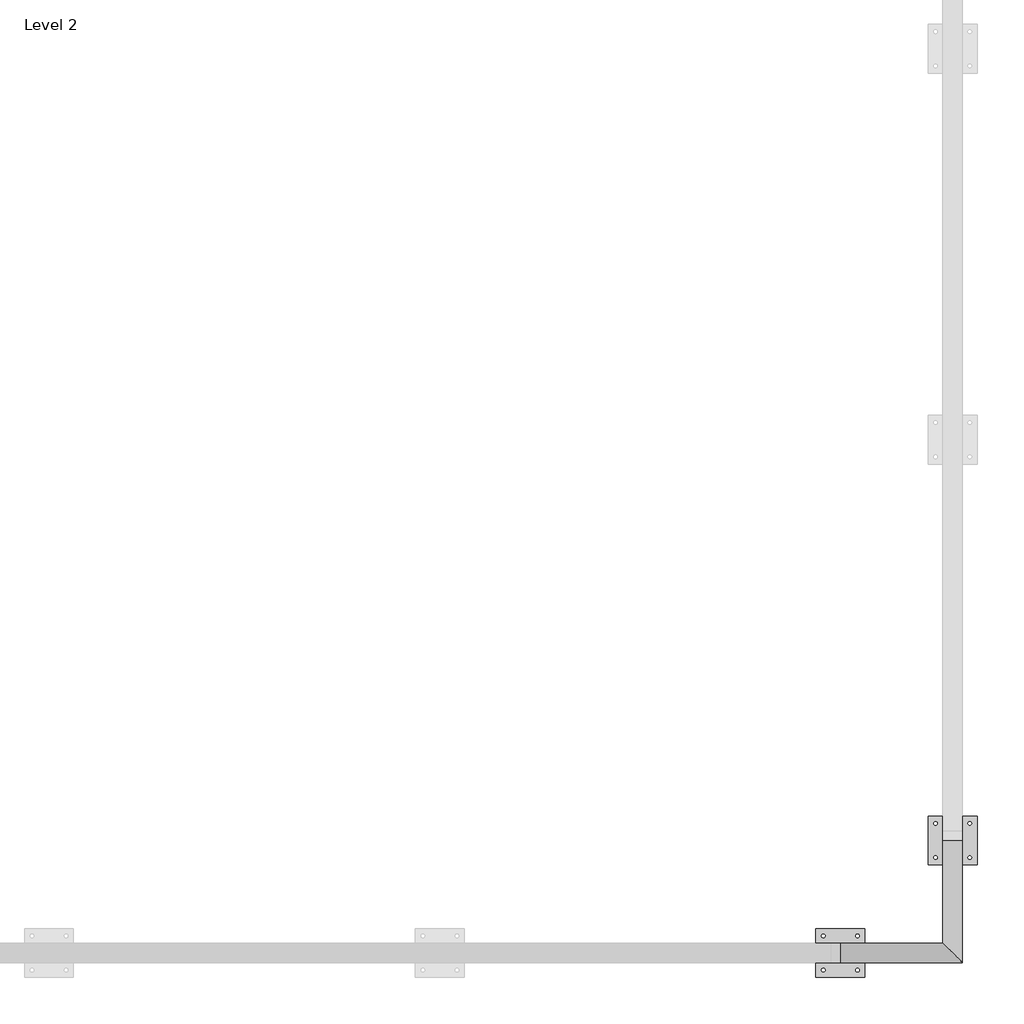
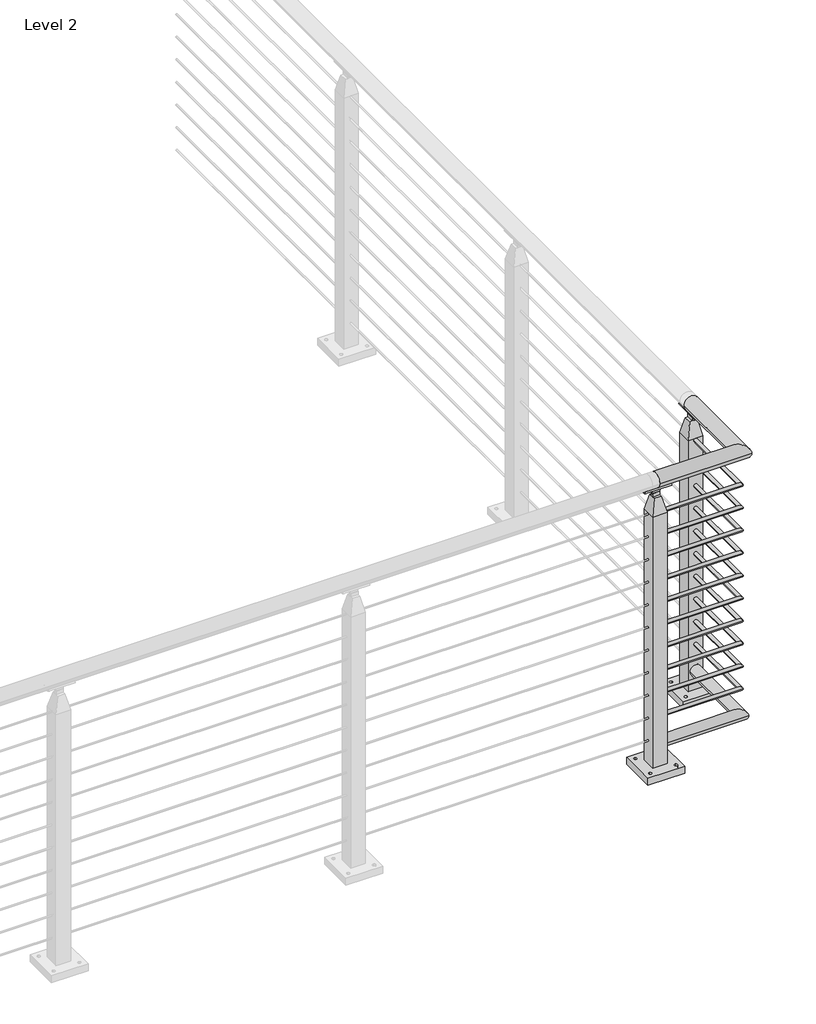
# One storey, part 9 of 17: 1 railing.
"""IFC4 building model written with IfcOpenShell, lengths in millimetres."""

from ifc_helpers import new_model, si_unit, point, frame, frame_2d, origin, place, context, project, spatial, polyline, circle_curve, ellipse_curve, trimmed, segment, composite_curve, outline, extrude, faceted_brep, element, save
from ifc_brep_helpers import plane_surface, cylinder_surface, revolved_surface, advanced_brep

model = new_model("IFC4")

# Units and contexts
model_context = context("Model", 3, world=origin())
ifc_project = project(units=[si_unit("LENGTHUNIT", "METRE", prefix="MILLI")], contexts=[model_context])

# Site, building, storey
site = spatial("IfcSite", under=ifc_project)
building = spatial("IfcBuilding", under=site)
storey = spatial("IfcBuildingStorey", under=building, Name="Level 2", Elevation=3048.0)

# Railing
placement = place(None, origin())
element("IfcRailing", 1, ObjectType="VIVA-CUBE-Cable-Floor Mount-Corner", at=placement, inside=storey, context=model_context, shape_type="SolidModel", body=[
    advanced_brep(
    [(20617.7199014, -52130.1426165, 4102.1), (20617.7199014, -52079.3426165, 4102.1), (20935.2199014, -52130.1426165, 4102.1), (20884.4199014, -52079.3426165, 4102.1), (20935.2199014, -51812.6426165, 4102.1), (20884.4199014, -51812.6426165, 4102.1)],
    [
        (0, 1, circle_curve(frame((20617.7199014, -52104.7426165, 4102.1), z_axis=(-1.0, 0.0, 0.0), x_axis=(0.0, 1.0, 0.0)), 25.4)),
        (1, 0, circle_curve(frame((20617.7199014, -52104.7426165, 4102.1), z_axis=(-1.0, 0.0, 0.0), x_axis=(0.0, 1.0, 0.0)), 25.4)),
        (0, 2),
        (2, 3, ellipse_curve(frame((20909.8199014, -52104.7426165, 4102.1), z_axis=(-0.7071067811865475, -0.7071067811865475, 0.0), x_axis=(-0.7071067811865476, 0.7071067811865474, 0.0)), 35.9210245, 25.4)),
        (3, 1),
        (3, 2, ellipse_curve(frame((20909.8199014, -52104.7426165, 4102.1), z_axis=(-0.7071067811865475, -0.7071067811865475, 0.0), x_axis=(-0.7071067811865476, 0.7071067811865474, 0.0)), 35.9210245, 25.4)),
        (4, 5, circle_curve(frame((20909.8199014, -51812.6426165, 4102.1), z_axis=(0.0, 1.0, 0.0), x_axis=(-1.0, 0.0, 0.0)), 25.4)),
        (5, 4, circle_curve(frame((20909.8199014, -51812.6426165, 4102.1), z_axis=(0.0, 1.0, 0.0), x_axis=(-1.0, 0.0, 0.0)), 25.4)),
        (2, 4),
        (5, 3),
    ],
    [
        plane_surface(frame((20617.7199014, -52104.7426165, 4127.5), z_axis=(-1.0, 0.0, 0.0), x_axis=(0.0, 1.0, 0.0))),
        cylinder_surface(frame((20617.7199014, -52104.7426165, 4102.1), z_axis=(-1.0, 0.0, 0.0), x_axis=(0.0, 1.0, 0.0)), 25.4),
        plane_surface(frame((20909.8199014, -51812.6426165, 4127.5), z_axis=(0.0, 1.0, 0.0), x_axis=(0.0, 0.0, 1.0))),
        cylinder_surface(frame((20909.8199014, -52104.7426165, 4102.1), z_axis=(0.0, -1.0, 0.0), x_axis=(-1.0, 0.0, 0.0)), 25.4),
    ],
    [
        (0, [[1, 2]]),
        (1, [[-1, 3, 4, 5]]),
        (1, [[-2, -5, 6, -3]]),
        (2, [[7, 8]]),
        (3, [[-4, 9, -8, 10]]),
        (3, [[-6, -10, -7, -9]]),
    ],
),
    advanced_brep(
    [(20617.7199014, -52098.3926165, 3981.45), (20617.7199014, -52111.0926165, 3981.45), (20903.4699014, -52098.3926165, 3981.45), (20916.1699014, -52111.0926165, 3981.45), (20903.4699014, -51812.6426165, 3981.45), (20916.1699014, -51812.6426165, 3981.45)],
    [
        (0, 1, circle_curve(frame((20617.7199014, -52104.7426165, 3981.45), z_axis=(-1.0, 0.0, 0.0), x_axis=(0.0, -1.0, 0.0)), 6.35)),
        (1, 0, circle_curve(frame((20617.7199014, -52104.7426165, 3981.45), z_axis=(-1.0, 0.0, 0.0), x_axis=(0.0, -1.0, 0.0)), 6.35)),
        (0, 2),
        (2, 3, ellipse_curve(frame((20909.8199014, -52104.7426165, 3981.45), z_axis=(-0.7071067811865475, -0.7071067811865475, 0.0), x_axis=(-0.7071067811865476, 0.7071067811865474, 0.0)), 8.9802561, 6.35)),
        (3, 1),
        (3, 2, ellipse_curve(frame((20909.8199014, -52104.7426165, 3981.45), z_axis=(-0.7071067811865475, -0.7071067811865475, 0.0), x_axis=(-0.7071067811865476, 0.7071067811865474, 0.0)), 8.9802561, 6.35)),
        (4, 5, circle_curve(frame((20909.8199014, -51812.6426165, 3981.45), z_axis=(0.0, 1.0, 0.0), x_axis=(1.0, 0.0, 0.0)), 6.35)),
        (5, 4, circle_curve(frame((20909.8199014, -51812.6426165, 3981.45), z_axis=(0.0, 1.0, 0.0), x_axis=(1.0, 0.0, 0.0)), 6.35)),
        (2, 4),
        (5, 3),
    ],
    [
        plane_surface(frame((20617.7199014, -52104.7426165, 3987.8), z_axis=(-1.0, 0.0, 0.0), x_axis=(0.0, 1.0, 0.0))),
        cylinder_surface(frame((20617.7199014, -52104.7426165, 3981.45), z_axis=(-1.0, 0.0, 0.0), x_axis=(0.0, -1.0, 0.0)), 6.35),
        plane_surface(frame((20909.8199014, -51812.6426165, 3987.8), z_axis=(0.0, 1.0, 0.0), x_axis=(0.0, 0.0, 1.0))),
        cylinder_surface(frame((20909.8199014, -52104.7426165, 3981.45), z_axis=(0.0, -1.0, 0.0), x_axis=(1.0, 0.0, 0.0)), 6.35),
    ],
    [
        (0, [[1, 2]]),
        (1, [[-1, 3, 4, 5]]),
        (1, [[-2, -5, 6, -3]]),
        (2, [[7, 8]]),
        (3, [[-4, 9, -8, 10]]),
        (3, [[-6, -10, -7, -9]]),
    ],
),
    advanced_brep(
    [(20617.7199014, -52098.3926165, 3898.9), (20617.7199014, -52111.0926165, 3898.9), (20903.4699014, -52098.3926165, 3898.9), (20916.1699014, -52111.0926165, 3898.9), (20903.4699014, -51812.6426165, 3898.9), (20916.1699014, -51812.6426165, 3898.9)],
    [
        (0, 1, circle_curve(frame((20617.7199014, -52104.7426165, 3898.9), z_axis=(-1.0, 0.0, 0.0), x_axis=(0.0, -1.0, 0.0)), 6.35)),
        (1, 0, circle_curve(frame((20617.7199014, -52104.7426165, 3898.9), z_axis=(-1.0, 0.0, 0.0), x_axis=(0.0, -1.0, 0.0)), 6.35)),
        (0, 2),
        (2, 3, ellipse_curve(frame((20909.8199014, -52104.7426165, 3898.9), z_axis=(-0.7071067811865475, -0.7071067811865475, 0.0), x_axis=(-0.7071067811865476, 0.7071067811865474, 0.0)), 8.9802561, 6.35)),
        (3, 1),
        (3, 2, ellipse_curve(frame((20909.8199014, -52104.7426165, 3898.9), z_axis=(-0.7071067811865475, -0.7071067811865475, 0.0), x_axis=(-0.7071067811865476, 0.7071067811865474, 0.0)), 8.9802561, 6.35)),
        (4, 5, circle_curve(frame((20909.8199014, -51812.6426165, 3898.9), z_axis=(0.0, 1.0, 0.0), x_axis=(1.0, 0.0, 0.0)), 6.35)),
        (5, 4, circle_curve(frame((20909.8199014, -51812.6426165, 3898.9), z_axis=(0.0, 1.0, 0.0), x_axis=(1.0, 0.0, 0.0)), 6.35)),
        (2, 4),
        (5, 3),
    ],
    [
        plane_surface(frame((20617.7199014, -52104.7426165, 3905.25), z_axis=(-1.0, 0.0, 0.0), x_axis=(0.0, 1.0, 0.0))),
        cylinder_surface(frame((20617.7199014, -52104.7426165, 3898.9), z_axis=(-1.0, 0.0, 0.0), x_axis=(0.0, -1.0, 0.0)), 6.35),
        plane_surface(frame((20909.8199014, -51812.6426165, 3905.25), z_axis=(0.0, 1.0, 0.0), x_axis=(0.0, 0.0, 1.0))),
        cylinder_surface(frame((20909.8199014, -52104.7426165, 3898.9), z_axis=(0.0, -1.0, 0.0), x_axis=(1.0, 0.0, 0.0)), 6.35),
    ],
    [
        (0, [[1, 2]]),
        (1, [[-1, 3, 4, 5]]),
        (1, [[-2, -5, 6, -3]]),
        (2, [[7, 8]]),
        (3, [[-4, 9, -8, 10]]),
        (3, [[-6, -10, -7, -9]]),
    ],
),
    advanced_brep(
    [(20617.7199014, -52098.3926165, 3816.35), (20617.7199014, -52111.0926165, 3816.35), (20903.4699014, -52098.3926165, 3816.35), (20916.1699014, -52111.0926165, 3816.35), (20903.4699014, -51812.6426165, 3816.35), (20916.1699014, -51812.6426165, 3816.35)],
    [
        (0, 1, circle_curve(frame((20617.7199014, -52104.7426165, 3816.35), z_axis=(-1.0, 0.0, 0.0), x_axis=(0.0, -1.0, 0.0)), 6.35)),
        (1, 0, circle_curve(frame((20617.7199014, -52104.7426165, 3816.35), z_axis=(-1.0, 0.0, 0.0), x_axis=(0.0, -1.0, 0.0)), 6.35)),
        (0, 2),
        (2, 3, ellipse_curve(frame((20909.8199014, -52104.7426165, 3816.35), z_axis=(-0.7071067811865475, -0.7071067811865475, 0.0), x_axis=(-0.7071067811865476, 0.7071067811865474, 0.0)), 8.9802561, 6.35)),
        (3, 1),
        (3, 2, ellipse_curve(frame((20909.8199014, -52104.7426165, 3816.35), z_axis=(-0.7071067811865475, -0.7071067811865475, 0.0), x_axis=(-0.7071067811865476, 0.7071067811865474, 0.0)), 8.9802561, 6.35)),
        (4, 5, circle_curve(frame((20909.8199014, -51812.6426165, 3816.35), z_axis=(0.0, 1.0, 0.0), x_axis=(1.0, 0.0, 0.0)), 6.35)),
        (5, 4, circle_curve(frame((20909.8199014, -51812.6426165, 3816.35), z_axis=(0.0, 1.0, 0.0), x_axis=(1.0, 0.0, 0.0)), 6.35)),
        (2, 4),
        (5, 3),
    ],
    [
        plane_surface(frame((20617.7199014, -52104.7426165, 3822.7), z_axis=(-1.0, 0.0, 0.0), x_axis=(0.0, 1.0, 0.0))),
        cylinder_surface(frame((20617.7199014, -52104.7426165, 3816.35), z_axis=(-1.0, 0.0, 0.0), x_axis=(0.0, -1.0, 0.0)), 6.35),
        plane_surface(frame((20909.8199014, -51812.6426165, 3822.7), z_axis=(0.0, 1.0, 0.0), x_axis=(0.0, 0.0, 1.0))),
        cylinder_surface(frame((20909.8199014, -52104.7426165, 3816.35), z_axis=(0.0, -1.0, 0.0), x_axis=(1.0, 0.0, 0.0)), 6.35),
    ],
    [
        (0, [[1, 2]]),
        (1, [[-1, 3, 4, 5]]),
        (1, [[-2, -5, 6, -3]]),
        (2, [[7, 8]]),
        (3, [[-4, 9, -8, 10]]),
        (3, [[-6, -10, -7, -9]]),
    ],
),
    advanced_brep(
    [(20617.7199014, -52098.3926165, 3733.8), (20617.7199014, -52111.0926165, 3733.8), (20903.4699014, -52098.3926165, 3733.8), (20916.1699014, -52111.0926165, 3733.8), (20903.4699014, -51812.6426165, 3733.8), (20916.1699014, -51812.6426165, 3733.8)],
    [
        (0, 1, circle_curve(frame((20617.7199014, -52104.7426165, 3733.8), z_axis=(-1.0, 0.0, 0.0), x_axis=(0.0, -1.0, 0.0)), 6.35)),
        (1, 0, circle_curve(frame((20617.7199014, -52104.7426165, 3733.8), z_axis=(-1.0, 0.0, 0.0), x_axis=(0.0, -1.0, 0.0)), 6.35)),
        (0, 2),
        (2, 3, ellipse_curve(frame((20909.8199014, -52104.7426165, 3733.8), z_axis=(-0.7071067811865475, -0.7071067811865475, 0.0), x_axis=(-0.7071067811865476, 0.7071067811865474, 0.0)), 8.9802561, 6.35)),
        (3, 1),
        (3, 2, ellipse_curve(frame((20909.8199014, -52104.7426165, 3733.8), z_axis=(-0.7071067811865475, -0.7071067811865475, 0.0), x_axis=(-0.7071067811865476, 0.7071067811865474, 0.0)), 8.9802561, 6.35)),
        (4, 5, circle_curve(frame((20909.8199014, -51812.6426165, 3733.8), z_axis=(0.0, 1.0, 0.0), x_axis=(1.0, 0.0, 0.0)), 6.35)),
        (5, 4, circle_curve(frame((20909.8199014, -51812.6426165, 3733.8), z_axis=(0.0, 1.0, 0.0), x_axis=(1.0, 0.0, 0.0)), 6.35)),
        (2, 4),
        (5, 3),
    ],
    [
        plane_surface(frame((20617.7199014, -52104.7426165, 3740.15), z_axis=(-1.0, 0.0, 0.0), x_axis=(0.0, 1.0, 0.0))),
        cylinder_surface(frame((20617.7199014, -52104.7426165, 3733.8), z_axis=(-1.0, 0.0, 0.0), x_axis=(0.0, -1.0, 0.0)), 6.35),
        plane_surface(frame((20909.8199014, -51812.6426165, 3740.15), z_axis=(0.0, 1.0, 0.0), x_axis=(0.0, 0.0, 1.0))),
        cylinder_surface(frame((20909.8199014, -52104.7426165, 3733.8), z_axis=(0.0, -1.0, 0.0), x_axis=(1.0, 0.0, 0.0)), 6.35),
    ],
    [
        (0, [[1, 2]]),
        (1, [[-1, 3, 4, 5]]),
        (1, [[-2, -5, 6, -3]]),
        (2, [[7, 8]]),
        (3, [[-4, 9, -8, 10]]),
        (3, [[-6, -10, -7, -9]]),
    ],
),
    advanced_brep(
    [(20617.7199014, -52098.3926165, 3651.25), (20617.7199014, -52111.0926165, 3651.25), (20903.4699014, -52098.3926165, 3651.25), (20916.1699014, -52111.0926165, 3651.25), (20903.4699014, -51812.6426165, 3651.25), (20916.1699014, -51812.6426165, 3651.25)],
    [
        (0, 1, circle_curve(frame((20617.7199014, -52104.7426165, 3651.25), z_axis=(-1.0, 0.0, 0.0), x_axis=(0.0, -1.0, 0.0)), 6.35)),
        (1, 0, circle_curve(frame((20617.7199014, -52104.7426165, 3651.25), z_axis=(-1.0, 0.0, 0.0), x_axis=(0.0, -1.0, 0.0)), 6.35)),
        (0, 2),
        (2, 3, ellipse_curve(frame((20909.8199014, -52104.7426165, 3651.25), z_axis=(-0.7071067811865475, -0.7071067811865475, 0.0), x_axis=(-0.7071067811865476, 0.7071067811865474, 0.0)), 8.9802561, 6.35)),
        (3, 1),
        (3, 2, ellipse_curve(frame((20909.8199014, -52104.7426165, 3651.25), z_axis=(-0.7071067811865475, -0.7071067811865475, 0.0), x_axis=(-0.7071067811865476, 0.7071067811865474, 0.0)), 8.9802561, 6.35)),
        (4, 5, circle_curve(frame((20909.8199014, -51812.6426165, 3651.25), z_axis=(0.0, 1.0, 0.0), x_axis=(1.0, 0.0, 0.0)), 6.35)),
        (5, 4, circle_curve(frame((20909.8199014, -51812.6426165, 3651.25), z_axis=(0.0, 1.0, 0.0), x_axis=(1.0, 0.0, 0.0)), 6.35)),
        (2, 4),
        (5, 3),
    ],
    [
        plane_surface(frame((20617.7199014, -52104.7426165, 3657.6), z_axis=(-1.0, 0.0, 0.0), x_axis=(0.0, 1.0, 0.0))),
        cylinder_surface(frame((20617.7199014, -52104.7426165, 3651.25), z_axis=(-1.0, 0.0, 0.0), x_axis=(0.0, -1.0, 0.0)), 6.35),
        plane_surface(frame((20909.8199014, -51812.6426165, 3657.6), z_axis=(0.0, 1.0, 0.0), x_axis=(0.0, 0.0, 1.0))),
        cylinder_surface(frame((20909.8199014, -52104.7426165, 3651.25), z_axis=(0.0, -1.0, 0.0), x_axis=(1.0, 0.0, 0.0)), 6.35),
    ],
    [
        (0, [[1, 2]]),
        (1, [[-1, 3, 4, 5]]),
        (1, [[-2, -5, 6, -3]]),
        (2, [[7, 8]]),
        (3, [[-4, 9, -8, 10]]),
        (3, [[-6, -10, -7, -9]]),
    ],
),
    advanced_brep(
    [(20617.7199014, -52098.3926165, 3568.7), (20617.7199014, -52111.0926165, 3568.7), (20903.4699014, -52098.3926165, 3568.7), (20916.1699014, -52111.0926165, 3568.7), (20903.4699014, -51812.6426165, 3568.7), (20916.1699014, -51812.6426165, 3568.7)],
    [
        (0, 1, circle_curve(frame((20617.7199014, -52104.7426165, 3568.7), z_axis=(-1.0, 0.0, 0.0), x_axis=(0.0, -1.0, 0.0)), 6.35)),
        (1, 0, circle_curve(frame((20617.7199014, -52104.7426165, 3568.7), z_axis=(-1.0, 0.0, 0.0), x_axis=(0.0, -1.0, 0.0)), 6.35)),
        (0, 2),
        (2, 3, ellipse_curve(frame((20909.8199014, -52104.7426165, 3568.7), z_axis=(-0.7071067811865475, -0.7071067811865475, 0.0), x_axis=(-0.7071067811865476, 0.7071067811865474, 0.0)), 8.9802561, 6.35)),
        (3, 1),
        (3, 2, ellipse_curve(frame((20909.8199014, -52104.7426165, 3568.7), z_axis=(-0.7071067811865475, -0.7071067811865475, 0.0), x_axis=(-0.7071067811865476, 0.7071067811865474, 0.0)), 8.9802561, 6.35)),
        (4, 5, circle_curve(frame((20909.8199014, -51812.6426165, 3568.7), z_axis=(0.0, 1.0, 0.0), x_axis=(1.0, 0.0, 0.0)), 6.35)),
        (5, 4, circle_curve(frame((20909.8199014, -51812.6426165, 3568.7), z_axis=(0.0, 1.0, 0.0), x_axis=(1.0, 0.0, 0.0)), 6.35)),
        (2, 4),
        (5, 3),
    ],
    [
        plane_surface(frame((20617.7199014, -52104.7426165, 3575.05), z_axis=(-1.0, 0.0, 0.0), x_axis=(0.0, 1.0, 0.0))),
        cylinder_surface(frame((20617.7199014, -52104.7426165, 3568.7), z_axis=(-1.0, 0.0, 0.0), x_axis=(0.0, -1.0, 0.0)), 6.35),
        plane_surface(frame((20909.8199014, -51812.6426165, 3575.05), z_axis=(0.0, 1.0, 0.0), x_axis=(0.0, 0.0, 1.0))),
        cylinder_surface(frame((20909.8199014, -52104.7426165, 3568.7), z_axis=(0.0, -1.0, 0.0), x_axis=(1.0, 0.0, 0.0)), 6.35),
    ],
    [
        (0, [[1, 2]]),
        (1, [[-1, 3, 4, 5]]),
        (1, [[-2, -5, 6, -3]]),
        (2, [[7, 8]]),
        (3, [[-4, 9, -8, 10]]),
        (3, [[-6, -10, -7, -9]]),
    ],
),
    advanced_brep(
    [(20617.7199014, -52098.3926165, 3486.15), (20617.7199014, -52111.0926165, 3486.15), (20903.4699014, -52098.3926165, 3486.15), (20916.1699014, -52111.0926165, 3486.15), (20903.4699014, -51812.6426165, 3486.15), (20916.1699014, -51812.6426165, 3486.15)],
    [
        (0, 1, circle_curve(frame((20617.7199014, -52104.7426165, 3486.15), z_axis=(-1.0, 0.0, 0.0), x_axis=(0.0, -1.0, 0.0)), 6.35)),
        (1, 0, circle_curve(frame((20617.7199014, -52104.7426165, 3486.15), z_axis=(-1.0, 0.0, 0.0), x_axis=(0.0, -1.0, 0.0)), 6.35)),
        (0, 2),
        (2, 3, ellipse_curve(frame((20909.8199014, -52104.7426165, 3486.15), z_axis=(-0.7071067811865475, -0.7071067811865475, 0.0), x_axis=(-0.7071067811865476, 0.7071067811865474, 0.0)), 8.9802561, 6.35)),
        (3, 1),
        (3, 2, ellipse_curve(frame((20909.8199014, -52104.7426165, 3486.15), z_axis=(-0.7071067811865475, -0.7071067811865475, 0.0), x_axis=(-0.7071067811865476, 0.7071067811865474, 0.0)), 8.9802561, 6.35)),
        (4, 5, circle_curve(frame((20909.8199014, -51812.6426165, 3486.15), z_axis=(0.0, 1.0, 0.0), x_axis=(1.0, 0.0, 0.0)), 6.35)),
        (5, 4, circle_curve(frame((20909.8199014, -51812.6426165, 3486.15), z_axis=(0.0, 1.0, 0.0), x_axis=(1.0, 0.0, 0.0)), 6.35)),
        (2, 4),
        (5, 3),
    ],
    [
        plane_surface(frame((20617.7199014, -52104.7426165, 3492.5), z_axis=(-1.0, 0.0, 0.0), x_axis=(0.0, 1.0, 0.0))),
        cylinder_surface(frame((20617.7199014, -52104.7426165, 3486.15), z_axis=(-1.0, 0.0, 0.0), x_axis=(0.0, -1.0, 0.0)), 6.35),
        plane_surface(frame((20909.8199014, -51812.6426165, 3492.5), z_axis=(0.0, 1.0, 0.0), x_axis=(0.0, 0.0, 1.0))),
        cylinder_surface(frame((20909.8199014, -52104.7426165, 3486.15), z_axis=(0.0, -1.0, 0.0), x_axis=(1.0, 0.0, 0.0)), 6.35),
    ],
    [
        (0, [[1, 2]]),
        (1, [[-1, 3, 4, 5]]),
        (1, [[-2, -5, 6, -3]]),
        (2, [[7, 8]]),
        (3, [[-4, 9, -8, 10]]),
        (3, [[-6, -10, -7, -9]]),
    ],
),
    advanced_brep(
    [(20617.7199014, -52098.3926165, 3403.6), (20617.7199014, -52111.0926165, 3403.6), (20903.4699014, -52098.3926165, 3403.6), (20916.1699014, -52111.0926165, 3403.6), (20903.4699014, -51812.6426165, 3403.6), (20916.1699014, -51812.6426165, 3403.6)],
    [
        (0, 1, circle_curve(frame((20617.7199014, -52104.7426165, 3403.6), z_axis=(-1.0, 0.0, 0.0), x_axis=(0.0, -1.0, 0.0)), 6.35)),
        (1, 0, circle_curve(frame((20617.7199014, -52104.7426165, 3403.6), z_axis=(-1.0, 0.0, 0.0), x_axis=(0.0, -1.0, 0.0)), 6.35)),
        (0, 2),
        (2, 3, ellipse_curve(frame((20909.8199014, -52104.7426165, 3403.6), z_axis=(-0.7071067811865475, -0.7071067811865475, 0.0), x_axis=(-0.7071067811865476, 0.7071067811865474, 0.0)), 8.9802561, 6.35)),
        (3, 1),
        (3, 2, ellipse_curve(frame((20909.8199014, -52104.7426165, 3403.6), z_axis=(-0.7071067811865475, -0.7071067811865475, 0.0), x_axis=(-0.7071067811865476, 0.7071067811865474, 0.0)), 8.9802561, 6.35)),
        (4, 5, circle_curve(frame((20909.8199014, -51812.6426165, 3403.6), z_axis=(0.0, 1.0, 0.0), x_axis=(1.0, 0.0, 0.0)), 6.35)),
        (5, 4, circle_curve(frame((20909.8199014, -51812.6426165, 3403.6), z_axis=(0.0, 1.0, 0.0), x_axis=(1.0, 0.0, 0.0)), 6.35)),
        (2, 4),
        (5, 3),
    ],
    [
        plane_surface(frame((20617.7199014, -52104.7426165, 3409.95), z_axis=(-1.0, 0.0, 0.0), x_axis=(0.0, 1.0, 0.0))),
        cylinder_surface(frame((20617.7199014, -52104.7426165, 3403.6), z_axis=(-1.0, 0.0, 0.0), x_axis=(0.0, -1.0, 0.0)), 6.35),
        plane_surface(frame((20909.8199014, -51812.6426165, 3409.95), z_axis=(0.0, 1.0, 0.0), x_axis=(0.0, 0.0, 1.0))),
        cylinder_surface(frame((20909.8199014, -52104.7426165, 3403.6), z_axis=(0.0, -1.0, 0.0), x_axis=(1.0, 0.0, 0.0)), 6.35),
    ],
    [
        (0, [[1, 2]]),
        (1, [[-1, 3, 4, 5]]),
        (1, [[-2, -5, 6, -3]]),
        (2, [[7, 8]]),
        (3, [[-4, 9, -8, 10]]),
        (3, [[-6, -10, -7, -9]]),
    ],
),
    advanced_brep(
    [(20617.7199014, -52098.3926165, 3321.05), (20617.7199014, -52111.0926165, 3321.05), (20903.4699014, -52098.3926165, 3321.05), (20916.1699014, -52111.0926165, 3321.05), (20903.4699014, -51812.6426165, 3321.05), (20916.1699014, -51812.6426165, 3321.05)],
    [
        (0, 1, circle_curve(frame((20617.7199014, -52104.7426165, 3321.05), z_axis=(-1.0, 0.0, 0.0), x_axis=(0.0, -1.0, 0.0)), 6.35)),
        (1, 0, circle_curve(frame((20617.7199014, -52104.7426165, 3321.05), z_axis=(-1.0, 0.0, 0.0), x_axis=(0.0, -1.0, 0.0)), 6.35)),
        (0, 2),
        (2, 3, ellipse_curve(frame((20909.8199014, -52104.7426165, 3321.05), z_axis=(-0.7071067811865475, -0.7071067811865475, 0.0), x_axis=(-0.7071067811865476, 0.7071067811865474, 0.0)), 8.9802561, 6.35)),
        (3, 1),
        (3, 2, ellipse_curve(frame((20909.8199014, -52104.7426165, 3321.05), z_axis=(-0.7071067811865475, -0.7071067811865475, 0.0), x_axis=(-0.7071067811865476, 0.7071067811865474, 0.0)), 8.9802561, 6.35)),
        (4, 5, circle_curve(frame((20909.8199014, -51812.6426165, 3321.05), z_axis=(0.0, 1.0, 0.0), x_axis=(1.0, 0.0, 0.0)), 6.35)),
        (5, 4, circle_curve(frame((20909.8199014, -51812.6426165, 3321.05), z_axis=(0.0, 1.0, 0.0), x_axis=(1.0, 0.0, 0.0)), 6.35)),
        (2, 4),
        (5, 3),
    ],
    [
        plane_surface(frame((20617.7199014, -52104.7426165, 3327.4), z_axis=(-1.0, 0.0, 0.0), x_axis=(0.0, 1.0, 0.0))),
        cylinder_surface(frame((20617.7199014, -52104.7426165, 3321.05), z_axis=(-1.0, 0.0, 0.0), x_axis=(0.0, -1.0, 0.0)), 6.35),
        plane_surface(frame((20909.8199014, -51812.6426165, 3327.4), z_axis=(0.0, 1.0, 0.0), x_axis=(0.0, 0.0, 1.0))),
        cylinder_surface(frame((20909.8199014, -52104.7426165, 3321.05), z_axis=(0.0, -1.0, 0.0), x_axis=(1.0, 0.0, 0.0)), 6.35),
    ],
    [
        (0, [[1, 2]]),
        (1, [[-1, 3, 4, 5]]),
        (1, [[-2, -5, 6, -3]]),
        (2, [[7, 8]]),
        (3, [[-4, 9, -8, 10]]),
        (3, [[-6, -10, -7, -9]]),
    ],
),
    advanced_brep(
    [(20617.7199014, -52098.3926165, 3238.5), (20617.7199014, -52111.0926165, 3238.5), (20903.4699014, -52098.3926165, 3238.5), (20916.1699014, -52111.0926165, 3238.5), (20903.4699014, -51812.6426165, 3238.5), (20916.1699014, -51812.6426165, 3238.5)],
    [
        (0, 1, circle_curve(frame((20617.7199014, -52104.7426165, 3238.5), z_axis=(-1.0, 0.0, 0.0), x_axis=(0.0, -1.0, 0.0)), 6.35)),
        (1, 0, circle_curve(frame((20617.7199014, -52104.7426165, 3238.5), z_axis=(-1.0, 0.0, 0.0), x_axis=(0.0, -1.0, 0.0)), 6.35)),
        (0, 2),
        (2, 3, ellipse_curve(frame((20909.8199014, -52104.7426165, 3238.5), z_axis=(-0.7071067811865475, -0.7071067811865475, 0.0), x_axis=(-0.7071067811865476, 0.7071067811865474, 0.0)), 8.9802561, 6.35)),
        (3, 1),
        (3, 2, ellipse_curve(frame((20909.8199014, -52104.7426165, 3238.5), z_axis=(-0.7071067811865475, -0.7071067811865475, 0.0), x_axis=(-0.7071067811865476, 0.7071067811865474, 0.0)), 8.9802561, 6.35)),
        (4, 5, circle_curve(frame((20909.8199014, -51812.6426165, 3238.5), z_axis=(0.0, 1.0, 0.0), x_axis=(1.0, 0.0, 0.0)), 6.35)),
        (5, 4, circle_curve(frame((20909.8199014, -51812.6426165, 3238.5), z_axis=(0.0, 1.0, 0.0), x_axis=(1.0, 0.0, 0.0)), 6.35)),
        (2, 4),
        (5, 3),
    ],
    [
        plane_surface(frame((20617.7199014, -52104.7426165, 3244.85), z_axis=(-1.0, 0.0, 0.0), x_axis=(0.0, 1.0, 0.0))),
        cylinder_surface(frame((20617.7199014, -52104.7426165, 3238.5), z_axis=(-1.0, 0.0, 0.0), x_axis=(0.0, -1.0, 0.0)), 6.35),
        plane_surface(frame((20909.8199014, -51812.6426165, 3244.85), z_axis=(0.0, 1.0, 0.0), x_axis=(0.0, 0.0, 1.0))),
        cylinder_surface(frame((20909.8199014, -52104.7426165, 3238.5), z_axis=(0.0, -1.0, 0.0), x_axis=(1.0, 0.0, 0.0)), 6.35),
    ],
    [
        (0, [[1, 2]]),
        (1, [[-1, 3, 4, 5]]),
        (1, [[-2, -5, 6, -3]]),
        (2, [[7, 8]]),
        (3, [[-4, 9, -8, 10]]),
        (3, [[-6, -10, -7, -9]]),
    ],
),
    advanced_brep(
    [(20617.7199014, -52085.6926165, 3143.25), (20617.7199014, -52123.7926165, 3143.25), (20890.7699014, -52085.6926165, 3143.25), (20928.8699014, -52123.7926165, 3143.25), (20890.7699014, -51812.6426165, 3143.25), (20928.8699014, -51812.6426165, 3143.25)],
    [
        (0, 1, circle_curve(frame((20617.7199014, -52104.7426165, 3143.25), z_axis=(-1.0, 0.0, 0.0), x_axis=(0.0, -1.0, 0.0)), 19.05)),
        (1, 0, circle_curve(frame((20617.7199014, -52104.7426165, 3143.25), z_axis=(-1.0, 0.0, 0.0), x_axis=(0.0, -1.0, 0.0)), 19.05)),
        (0, 2),
        (2, 3, ellipse_curve(frame((20909.8199014, -52104.7426165, 3143.25), z_axis=(-0.7071067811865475, -0.7071067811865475, 0.0), x_axis=(-0.7071067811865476, 0.7071067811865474, 0.0)), 26.9407684, 19.05)),
        (3, 1),
        (3, 2, ellipse_curve(frame((20909.8199014, -52104.7426165, 3143.25), z_axis=(-0.7071067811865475, -0.7071067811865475, 0.0), x_axis=(-0.7071067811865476, 0.7071067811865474, 0.0)), 26.9407684, 19.05)),
        (4, 5, circle_curve(frame((20909.8199014, -51812.6426165, 3143.25), z_axis=(0.0, 1.0, 0.0), x_axis=(1.0, 0.0, 0.0)), 19.05)),
        (5, 4, circle_curve(frame((20909.8199014, -51812.6426165, 3143.25), z_axis=(0.0, 1.0, 0.0), x_axis=(1.0, 0.0, 0.0)), 19.05)),
        (2, 4),
        (5, 3),
    ],
    [
        plane_surface(frame((20617.7199014, -52104.7426165, 3162.3), z_axis=(-1.0, 0.0, 0.0), x_axis=(0.0, 1.0, 0.0))),
        cylinder_surface(frame((20617.7199014, -52104.7426165, 3143.25), z_axis=(-1.0, 0.0, 0.0), x_axis=(0.0, -1.0, 0.0)), 19.05),
        plane_surface(frame((20909.8199014, -51812.6426165, 3162.3), z_axis=(0.0, 1.0, 0.0), x_axis=(0.0, 0.0, 1.0))),
        cylinder_surface(frame((20909.8199014, -52104.7426165, 3143.25), z_axis=(0.0, -1.0, 0.0), x_axis=(1.0, 0.0, 0.0)), 19.05),
    ],
    [
        (0, [[1, 2]]),
        (1, [[-1, 3, 4, 5]]),
        (1, [[-2, -5, 6, -3]]),
        (2, [[7, 8]]),
        (3, [[-4, 9, -8, 10]]),
        (3, [[-6, -10, -7, -9]]),
    ],
),
    extrude(outline(polyline([(20846.3199014, -51748.7457415), (20973.3199014, -51748.7457415), (20973.3199014, -51875.7457415), (20846.3199014, -51875.7457415), (20846.3199014, -51748.7457415)]), holes=[composite_curve([segment(trimmed(circle_curve(frame_2d((20954.2699014, -51856.6957415)), 4.7625), [point((20959.0324014, -51856.6957415))], [point((20949.5074014, -51856.6957415))], True, "CARTESIAN"), True, "CONTINUOUS"), segment(trimmed(circle_curve(frame_2d((20954.2699014, -51856.6957415)), 4.7625), [point((20949.5074014, -51856.6957415))], [point((20959.0324014, -51856.6957415))], True, "CARTESIAN"), True, "CONTINUOUS")], self_intersect=False), composite_curve([segment(trimmed(circle_curve(frame_2d((20865.3699014, -51856.6957415)), 4.7625), [point((20870.1324014, -51856.6957415))], [point((20860.6074014, -51856.6957415))], True, "CARTESIAN"), True, "CONTINUOUS"), segment(trimmed(circle_curve(frame_2d((20865.3699014, -51856.6957415)), 4.7625), [point((20860.6074014, -51856.6957415))], [point((20870.1324014, -51856.6957415))], True, "CARTESIAN"), True, "CONTINUOUS")], self_intersect=False), composite_curve([segment(trimmed(circle_curve(frame_2d((20954.2699014, -51767.7957415)), 4.7625), [point((20959.0324014, -51767.7957415))], [point((20949.5074014, -51767.7957415))], True, "CARTESIAN"), True, "CONTINUOUS"), segment(trimmed(circle_curve(frame_2d((20954.2699014, -51767.7957415)), 4.7625), [point((20949.5074014, -51767.7957415))], [point((20959.0324014, -51767.7957415))], True, "CARTESIAN"), True, "CONTINUOUS")], self_intersect=False), composite_curve([segment(trimmed(circle_curve(frame_2d((20865.3699014, -51767.7957415)), 4.7625), [point((20870.1324014, -51767.7957415))], [point((20860.6074014, -51767.7957415))], True, "CARTESIAN"), True, "CONTINUOUS"), segment(trimmed(circle_curve(frame_2d((20865.3699014, -51767.7957415)), 4.7625), [point((20860.6074014, -51767.7957415))], [point((20870.1324014, -51767.7957415))], True, "CARTESIAN"), True, "CONTINUOUS")], self_intersect=False)]), frame((0.0, 0.0, 3048.0), z_axis=(0.0, 0.0, 1.0), x_axis=(1.0, 0.0, 0.0)), (0.0, 0.0, 1.0), 25.4),
    faceted_brep([(20897.1199014, -51799.5457415, 4045.2902749), (20897.1199014, -51824.9457415, 4045.2902749), (20905.8511514, -51824.9457415, 4045.2902749), (20905.8511514, -51799.5457415, 4045.2902749), (20922.5199014, -51824.9457415, 4045.2902749), (20922.5199014, -51799.5457415, 4045.2902749), (20913.7886514, -51799.5457415, 4045.2902749), (20913.7886514, -51824.9457415, 4045.2902749), (20884.4199014, -51786.8457415, 3989.1347854), (20935.2199014, -51786.8457415, 3989.1347854), (20884.4199014, -51837.6457415, 3989.1347854), (20935.2199014, -51837.6457415, 3989.1347854), (20884.4199014, -51786.8457415, 3073.4), (20935.2199014, -51786.8457415, 3073.4), (20935.2199014, -51837.6457415, 3073.4), (20884.4199014, -51837.6457415, 3073.4), (20913.7886514, -51824.9457415, 4057.3306013), (20913.7886514, -51799.5457415, 4057.3306013), (20905.8511514, -51799.5457415, 4057.3306013), (20905.8511514, -51824.9457415, 4057.3306013)], [[[0, 1, 2, 3]], [[4, 5, 6, 7]], [[8, 0, 3, 6, 5, 9]], [[1, 0, 8, 10]], [[1, 10, 11, 4, 7, 2]], [[5, 4, 11, 9]], [[12, 13, 14, 15]], [[12, 15, 10, 8]], [[15, 14, 11, 10]], [[14, 13, 9, 11]], [[13, 12, 8, 9]], [[16, 17, 18, 19]], [[17, 16, 7, 6]], [[18, 17, 6, 3]], [[19, 18, 3, 2]], [[16, 19, 2, 7]]]),
    extrude(outline(composite_curve([segment(trimmed(circle_curve(frame_2d((4102.1433184, 20909.723173)), 25.4345159), [point((4080.0284941, 20922.2869759))], [point((4079.9335733, 20897.3279392))], True, "CARTESIAN"), True, "CONTINUOUS"), segment(trimmed(circle_curve(frame_2d((4077.4310885, 20896.0832861)), 2.7949225), [point((4079.9335733, 20897.3279392))], [point((4075.0585031, 20894.605981))], False, "CARTESIAN"), True, "CONTINUOUS"), segment(trimmed(circle_curve(frame_2d((4102.905945, 20909.8566361)), 31.75), [point((4075.0585031, 20894.605981))], [point((4075.6392616, 20926.1228733))], False, "CARTESIAN"), True, "CONTINUOUS"), segment(trimmed(circle_curve(frame_2d((4077.5101807, 20923.8345335)), 2.9558141), [point((4075.6392616, 20926.1228733))], [point((4080.0284941, 20922.2869759))], False, "CARTESIAN"), True, "CONTINUOUS")], self_intersect=False)), frame((0.0, -51857.4831415, 0.0), z_axis=(0.0, 1.0, 0.0), x_axis=(0.0, 0.0, 1.0)), (0.0, 0.0, 1.0), 90.4748),
    advanced_brep(
    [(20907.2799014, -51785.1778267, 4071.3685171), (20907.2799014, -51799.5457415, 4057.0006022), (20907.2799014, -51824.9457415, 4057.0006022), (20907.2799014, -51839.3136564, 4071.3685171), (20912.3599014, -51785.1778267, 4071.3685171), (20912.3599014, -51839.3136564, 4071.3685171), (20912.3599014, -51824.9457415, 4057.0006022), (20912.3599014, -51799.5457415, 4057.0006022)],
    [
        (0, 1, circle_curve(frame((20907.2799014, -51785.1778267, 4057.0006022), z_axis=(1.0, 0.0, 0.0), x_axis=(0.0, -1.0, 0.0)), 14.3679149)),
        (1, 2, circle_curve(frame((20907.2799014, -51812.2457415, 4057.0006022), z_axis=(-1.0, 0.0, 0.0), x_axis=(0.0, -1.0, 0.0)), 12.7)),
        (2, 3, circle_curve(frame((20907.2799014, -51839.3136564, 4057.0006022), z_axis=(1.0, 0.0, 0.0), x_axis=(0.0, -1.0, 0.0)), 14.3679149)),
        (3, 0),
        (4, 5),
        (5, 6, circle_curve(frame((20912.3599014, -51839.3136564, 4057.0006022), z_axis=(-1.0, 0.0, 0.0), x_axis=(0.0, -1.0, 0.0)), 14.3679149)),
        (6, 7, circle_curve(frame((20912.3599014, -51812.2457415, 4057.0006022), z_axis=(1.0, 0.0, 0.0), x_axis=(0.0, -1.0, 0.0)), 12.7)),
        (7, 4, circle_curve(frame((20912.3599014, -51785.1778267, 4057.0006022), z_axis=(-1.0, 0.0, 0.0), x_axis=(0.0, -1.0, 0.0)), 14.3679149)),
        (0, 4),
        (7, 1),
        (6, 2),
        (5, 3),
    ],
    [
        plane_surface(frame((20907.2799014, -51799.5457415, 4057.0006022), z_axis=(-1.0, 0.0, 0.0), x_axis=(0.0, 0.0, -1.0))),
        plane_surface(frame((20912.3599014, -51799.5457415, 4057.0006022), z_axis=(1.0, 0.0, 0.0), x_axis=(0.0, 0.0, 1.0))),
        revolved_surface(polyline([(20912.3599014, -51799.5457416, 4057.0006022), (20907.2799014, -51799.5457416, 4057.0006022)]), (20912.3599014, -51785.1778267, 4057.0006022), (1.0, 0.0, 0.0)),
        cylinder_surface(frame((20912.3599014, -51812.2457415, 4057.0006022), z_axis=(-1.0, 0.0, 0.0), x_axis=(0.0, -1.0, 0.0)), 12.7),
        revolved_surface(polyline([(20912.3599014, -51853.6815713, 4057.0006022), (20907.2799014, -51853.6815713, 4057.0006022)]), (20912.3599014, -51839.3136564, 4057.0006022), (1.0, 0.0, 0.0)),
        plane_surface(frame((20907.2799014, -51839.3136564, 4071.3685171), z_axis=(0.0, 0.0, 1.0), x_axis=(1.0, 0.0, 0.0))),
    ],
    [
        (0, [[1, 2, 3, 4]]),
        (1, [[5, 6, 7, 8]]),
        (2, [[-1, 9, -8, 10]]),
        (3, [[-2, -10, -7, 11]]),
        (4, [[-3, -11, -6, 12]]),
        (5, [[-4, -12, -5, -9]]),
    ],
),
    extrude(outline(polyline([(20681.6167764, -52041.2426165), (20681.6167764, -52168.2426165), (20554.6167764, -52168.2426165), (20554.6167764, -52041.2426165), (20681.6167764, -52041.2426165)]), holes=[composite_curve([segment(trimmed(circle_curve(frame_2d((20573.6667764, -52149.1926165)), 4.7625), [point((20573.6667764, -52153.9551165))], [point((20573.6667764, -52144.4301165))], True, "CARTESIAN"), True, "CONTINUOUS"), segment(trimmed(circle_curve(frame_2d((20573.6667764, -52149.1926165)), 4.7625), [point((20573.6667764, -52144.4301165))], [point((20573.6667764, -52153.9551165))], True, "CARTESIAN"), True, "CONTINUOUS")], self_intersect=False), composite_curve([segment(trimmed(circle_curve(frame_2d((20573.6667764, -52060.2926165)), 4.7625), [point((20573.6667764, -52065.0551165))], [point((20573.6667764, -52055.5301165))], True, "CARTESIAN"), True, "CONTINUOUS"), segment(trimmed(circle_curve(frame_2d((20573.6667764, -52060.2926165)), 4.7625), [point((20573.6667764, -52055.5301165))], [point((20573.6667764, -52065.0551165))], True, "CARTESIAN"), True, "CONTINUOUS")], self_intersect=False), composite_curve([segment(trimmed(circle_curve(frame_2d((20662.5667764, -52149.1926165)), 4.7625), [point((20662.5667764, -52153.9551165))], [point((20662.5667764, -52144.4301165))], True, "CARTESIAN"), True, "CONTINUOUS"), segment(trimmed(circle_curve(frame_2d((20662.5667764, -52149.1926165)), 4.7625), [point((20662.5667764, -52144.4301165))], [point((20662.5667764, -52153.9551165))], True, "CARTESIAN"), True, "CONTINUOUS")], self_intersect=False), composite_curve([segment(trimmed(circle_curve(frame_2d((20662.5667764, -52060.2926165)), 4.7625), [point((20662.5667764, -52065.0551165))], [point((20662.5667764, -52055.5301165))], True, "CARTESIAN"), True, "CONTINUOUS"), segment(trimmed(circle_curve(frame_2d((20662.5667764, -52060.2926165)), 4.7625), [point((20662.5667764, -52055.5301165))], [point((20662.5667764, -52065.0551165))], True, "CARTESIAN"), True, "CONTINUOUS")], self_intersect=False)]), frame((0.0, 0.0, 3048.0), z_axis=(0.0, 0.0, 1.0), x_axis=(1.0, 0.0, 0.0)), (0.0, 0.0, 1.0), 25.4),
    faceted_brep([(20630.8167764, -52092.0426165, 4045.2902749), (20605.4167764, -52092.0426165, 4045.2902749), (20605.4167764, -52100.7738665, 4045.2902749), (20630.8167764, -52100.7738665, 4045.2902749), (20605.4167764, -52117.4426165, 4045.2902749), (20630.8167764, -52117.4426165, 4045.2902749), (20630.8167764, -52108.7113665, 4045.2902749), (20605.4167764, -52108.7113665, 4045.2902749), (20643.5167764, -52079.3426165, 3989.1347854), (20643.5167764, -52130.1426165, 3989.1347854), (20592.7167764, -52079.3426165, 3989.1347854), (20592.7167764, -52130.1426165, 3989.1347854), (20643.5167764, -52079.3426165, 3073.4), (20643.5167764, -52130.1426165, 3073.4), (20592.7167764, -52130.1426165, 3073.4), (20592.7167764, -52079.3426165, 3073.4), (20605.4167764, -52108.7113665, 4057.3306013), (20630.8167764, -52108.7113665, 4057.3306013), (20630.8167764, -52100.7738665, 4057.3306013), (20605.4167764, -52100.7738665, 4057.3306013)], [[[0, 1, 2, 3]], [[4, 5, 6, 7]], [[8, 0, 3, 6, 5, 9]], [[1, 0, 8, 10]], [[1, 10, 11, 4, 7, 2]], [[5, 4, 11, 9]], [[12, 13, 14, 15]], [[12, 15, 10, 8]], [[15, 14, 11, 10]], [[14, 13, 9, 11]], [[13, 12, 8, 9]], [[16, 17, 18, 19]], [[17, 16, 7, 6]], [[18, 17, 6, 3]], [[19, 18, 3, 2]], [[16, 19, 2, 7]]]),
    extrude(outline(composite_curve([segment(trimmed(circle_curve(frame_2d((-52104.6458882, 4102.1433184)), 25.4345159), [point((-52117.2096911, 4080.0284941))], [point((-52092.2506544, 4079.9335733))], True, "CARTESIAN"), True, "CONTINUOUS"), segment(trimmed(circle_curve(frame_2d((-52091.0060013, 4077.4310885)), 2.7949225), [point((-52092.2506544, 4079.9335733))], [point((-52089.5286962, 4075.0585031))], False, "CARTESIAN"), True, "CONTINUOUS"), segment(trimmed(circle_curve(frame_2d((-52104.7793513, 4102.905945)), 31.75), [point((-52089.5286962, 4075.0585031))], [point((-52121.0455885, 4075.6392616))], False, "CARTESIAN"), True, "CONTINUOUS"), segment(trimmed(circle_curve(frame_2d((-52118.7572487, 4077.5101807)), 2.9558141), [point((-52121.0455885, 4075.6392616))], [point((-52117.2096911, 4080.0284941))], False, "CARTESIAN"), True, "CONTINUOUS")], self_intersect=False)), frame((20572.8793764, 0.0, 0.0), z_axis=(1.0, 0.0, 0.0), x_axis=(0.0, 1.0, 0.0)), (0.0, 0.0, 1.0), 90.4748),
    advanced_brep(
    [(20645.1846912, -52102.2026165, 4071.3685171), (20630.8167764, -52102.2026165, 4057.0006022), (20605.4167764, -52102.2026165, 4057.0006022), (20591.0488615, -52102.2026165, 4071.3685171), (20645.1846912, -52107.2826165, 4071.3685171), (20591.0488615, -52107.2826165, 4071.3685171), (20605.4167764, -52107.2826165, 4057.0006022), (20630.8167764, -52107.2826165, 4057.0006022)],
    [
        (0, 1, circle_curve(frame((20645.1846912, -52102.2026165, 4057.0006022), z_axis=(0.0, -1.0, 0.0), x_axis=(-1.0, 0.0, 0.0)), 14.3679149)),
        (1, 2, circle_curve(frame((20618.1167764, -52102.2026165, 4057.0006022), z_axis=(0.0, 1.0, 0.0), x_axis=(-1.0, 0.0, 0.0)), 12.7)),
        (2, 3, circle_curve(frame((20591.0488615, -52102.2026165, 4057.0006022), z_axis=(0.0, -1.0, 0.0), x_axis=(-1.0, 0.0, 0.0)), 14.3679149)),
        (3, 0),
        (4, 5),
        (5, 6, circle_curve(frame((20591.0488615, -52107.2826165, 4057.0006022), z_axis=(0.0, 1.0, 0.0), x_axis=(-1.0, 0.0, 0.0)), 14.3679149)),
        (6, 7, circle_curve(frame((20618.1167764, -52107.2826165, 4057.0006022), z_axis=(0.0, -1.0, 0.0), x_axis=(-1.0, 0.0, 0.0)), 12.7)),
        (7, 4, circle_curve(frame((20645.1846912, -52107.2826165, 4057.0006022), z_axis=(0.0, 1.0, 0.0), x_axis=(-1.0, 0.0, 0.0)), 14.3679149)),
        (0, 4),
        (7, 1),
        (6, 2),
        (5, 3),
    ],
    [
        plane_surface(frame((20630.8167764, -52102.2026165, 4057.0006022), z_axis=(0.0, 1.0, 0.0), x_axis=(0.0, 0.0, -1.0))),
        plane_surface(frame((20630.8167764, -52107.2826165, 4057.0006022), z_axis=(0.0, -1.0, 0.0), x_axis=(0.0, 0.0, 1.0))),
        revolved_surface(polyline([(20630.8167763, -52107.2826165, 4057.0006022), (20630.8167763, -52102.2026165, 4057.0006022)]), (20645.1846912, -52107.2826165, 4057.0006022), (0.0, -1.0, 0.0)),
        cylinder_surface(frame((20618.1167764, -52107.2826165, 4057.0006022), z_axis=(0.0, 1.0, 0.0), x_axis=(-1.0, 0.0, 0.0)), 12.7),
        revolved_surface(polyline([(20576.680946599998, -52107.2826165, 4057.0006022), (20576.680946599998, -52102.2026165, 4057.0006022)]), (20591.0488615, -52107.2826165, 4057.0006022), (0.0, -1.0, 0.0)),
        plane_surface(frame((20591.0488615, -52102.2026165, 4071.3685171), z_axis=(0.0, 0.0, 1.0), x_axis=(0.0, -1.0, 0.0))),
    ],
    [
        (0, [[1, 2, 3, 4]]),
        (1, [[5, 6, 7, 8]]),
        (2, [[-1, 9, -8, 10]]),
        (3, [[-2, -10, -7, 11]]),
        (4, [[-3, -11, -6, 12]]),
        (5, [[-4, -12, -5, -9]]),
    ],
),
])

save(model, "model.ifc")
